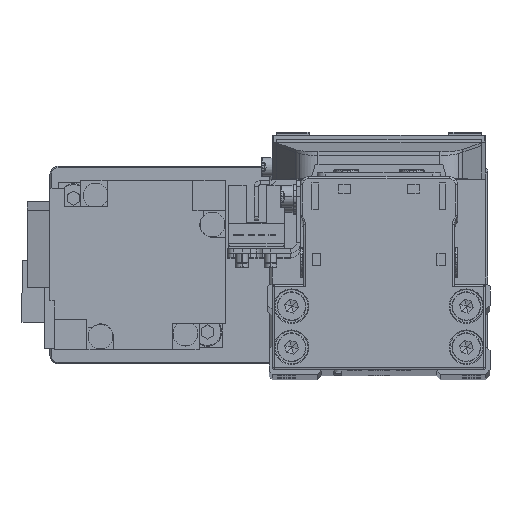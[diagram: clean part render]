
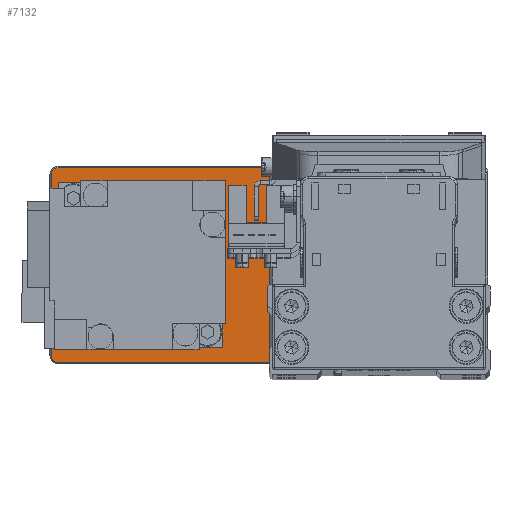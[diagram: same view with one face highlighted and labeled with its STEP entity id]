
A CAD part, top view. The second image highlights one B-rep face of the part: STEP entity #7132.
In plain terms, the highlighted planar face has unit normal (0, 0, 1).
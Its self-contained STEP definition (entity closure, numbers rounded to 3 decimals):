
#208 = EDGE_CURVE ( 'NONE', #26999, #27181, #16134, .T. ) ;
#572 = DIRECTION ( 'NONE',  ( -1., 0., 0. ) ) ;
#930 = DIRECTION ( 'NONE',  ( 0., 0., 1. ) ) ;
#1163 = VECTOR ( 'NONE', #572, 1000. ) ;
#2722 = CIRCLE ( 'NONE', #25641, 1.7 ) ;
#2948 = EDGE_CURVE ( 'NONE', #11490, #12778, #5357, .T. ) ;
#3284 = EDGE_LOOP ( 'NONE', ( #14914, #30682, #22603, #28601, #37656, #16591, #37247, #31876 ) ) ;
#3533 = DIRECTION ( 'NONE',  ( 0., 0., -1. ) ) ;
#3667 = DIRECTION ( 'NONE',  ( 1., 0., 0. ) ) ;
#4003 = FACE_OUTER_BOUND ( 'NONE', #3284, .T. ) ;
#4120 = EDGE_CURVE ( 'NONE', #9752, #39755, #26254, .T. ) ;
#5357 = CIRCLE ( 'NONE', #28283, 12.8 ) ;
#5688 = VERTEX_POINT ( 'NONE', #19235 ) ;
#5759 = VERTEX_POINT ( 'NONE', #22935 ) ;
#7103 = CARTESIAN_POINT ( 'NONE',  ( -50., 22., 5. ) ) ;
#7132 = ADVANCED_FACE ( 'NONE', ( #19564, #32068, #4003 ), #16511, .T. ) ;
#7136 = VECTOR ( 'NONE', #9497, 1000. ) ;
#8318 = CARTESIAN_POINT ( 'NONE',  ( 17.2, 0., 5. ) ) ;
#8536 = DIRECTION ( 'NONE',  ( 0., 0., 1. ) ) ;
#8549 = AXIS2_PLACEMENT_3D ( 'NONE', #39322, #11264, #23776 ) ;
#9104 = AXIS2_PLACEMENT_3D ( 'NONE', #27606, #40065, #12003 ) ;
#9110 = CARTESIAN_POINT ( 'NONE',  ( -17.7, 0., 5. ) ) ;
#9497 = DIRECTION ( 'NONE',  ( 0., -1., 0. ) ) ;
#9522 = CARTESIAN_POINT ( 'NONE',  ( 30., 0., 5. ) ) ;
#9752 = VERTEX_POINT ( 'NONE', #32127 ) ;
#9754 = AXIS2_PLACEMENT_3D ( 'NONE', #19251, #31740, #3667 ) ;
#9803 = DIRECTION ( 'NONE',  ( 0., 0., 1. ) ) ;
#10251 = DIRECTION ( 'NONE',  ( 1., 0., 0. ) ) ;
#10475 = LINE ( 'NONE', #23004, #35240 ) ;
#11264 = DIRECTION ( 'NONE',  ( 0., 0., 1. ) ) ;
#11490 = VERTEX_POINT ( 'NONE', #17545 ) ;
#12003 = DIRECTION ( 'NONE',  ( 1., 0., 0. ) ) ;
#12290 = ORIENTED_EDGE ( 'NONE', *, *, #19794, .T. ) ;
#12449 = EDGE_LOOP ( 'NONE', ( #26391, #12290 ) ) ;
#12778 = VERTEX_POINT ( 'NONE', #8318 ) ;
#12953 = AXIS2_PLACEMENT_3D ( 'NONE', #37856, #9803, #22340 ) ;
#13270 = ORIENTED_EDGE ( 'NONE', *, *, #2948, .T. ) ;
#13426 = DIRECTION ( 'NONE',  ( 1., 0., 0. ) ) ;
#14220 = CARTESIAN_POINT ( 'NONE',  ( 51.7, 22., 5. ) ) ;
#14457 = EDGE_CURVE ( 'NONE', #5759, #9752, #25855, .T. ) ;
#14914 = ORIENTED_EDGE ( 'NONE', *, *, #14457, .T. ) ;
#15229 = EDGE_CURVE ( 'NONE', #36341, #26999, #36490, .T. ) ;
#16025 = DIRECTION ( 'NONE',  ( 1., 0., 0. ) ) ;
#16124 = EDGE_LOOP ( 'NONE', ( #13270, #26208 ) ) ;
#16134 = LINE ( 'NONE', #28645, #1163 ) ;
#16511 = PLANE ( 'NONE',  #36007 ) ;
#16591 = ORIENTED_EDGE ( 'NONE', *, *, #25188, .T. ) ;
#16834 = CARTESIAN_POINT ( 'NONE',  ( 51.7, -22., 5. ) ) ;
#17545 = CARTESIAN_POINT ( 'NONE',  ( 42.8, 0., 5. ) ) ;
#17562 = EDGE_CURVE ( 'NONE', #39755, #36341, #10475, .T. ) ;
#18077 = EDGE_CURVE ( 'NONE', #34914, #38090, #25098, .T. ) ;
#18842 = AXIS2_PLACEMENT_3D ( 'NONE', #36586, #8536, #21066 ) ;
#18947 = CARTESIAN_POINT ( 'NONE',  ( -50., 23.7, 5. ) ) ;
#19235 = CARTESIAN_POINT ( 'NONE',  ( -38.3, 0., 5. ) ) ;
#19251 = CARTESIAN_POINT ( 'NONE',  ( 30., 0., 5. ) ) ;
#19559 = CARTESIAN_POINT ( 'NONE',  ( -51.7, -22., 5. ) ) ;
#19564 = FACE_BOUND ( 'NONE', #16124, .T. ) ;
#19622 = DIRECTION ( 'NONE',  ( 0., 0., 1. ) ) ;
#19794 = EDGE_CURVE ( 'NONE', #5688, #37880, #32422, .T. ) ;
#20807 = CARTESIAN_POINT ( 'NONE',  ( 50., 23.7, 5. ) ) ;
#21066 = DIRECTION ( 'NONE',  ( 1., 0., 0. ) ) ;
#22039 = DIRECTION ( 'NONE',  ( 0., 0., -1. ) ) ;
#22340 = DIRECTION ( 'NONE',  ( 1., 0., 0. ) ) ;
#22603 = ORIENTED_EDGE ( 'NONE', *, *, #17562, .T. ) ;
#22935 = CARTESIAN_POINT ( 'NONE',  ( -50., -23.7, 5. ) ) ;
#23004 = CARTESIAN_POINT ( 'NONE',  ( 51.7, 22., 5. ) ) ;
#23776 = DIRECTION ( 'NONE',  ( 1., 0., 0. ) ) ;
#25098 = LINE ( 'NONE', #37561, #7136 ) ;
#25188 = EDGE_CURVE ( 'NONE', #27181, #34914, #2722, .T. ) ;
#25641 = AXIS2_PLACEMENT_3D ( 'NONE', #7103, #19622, #32120 ) ;
#25855 = LINE ( 'NONE', #38309, #33320 ) ;
#25924 = CARTESIAN_POINT ( 'NONE',  ( -51.7, 22., 5. ) ) ;
#26208 = ORIENTED_EDGE ( 'NONE', *, *, #31294, .T. ) ;
#26254 = CIRCLE ( 'NONE', #8549, 1.7 ) ;
#26391 = ORIENTED_EDGE ( 'NONE', *, *, #33108, .T. ) ;
#26796 = CIRCLE ( 'NONE', #9104, 10.3 ) ;
#26999 = VERTEX_POINT ( 'NONE', #20807 ) ;
#27181 = VERTEX_POINT ( 'NONE', #18947 ) ;
#27451 = CIRCLE ( 'NONE', #9754, 12.8 ) ;
#27606 = CARTESIAN_POINT ( 'NONE',  ( -28., 0., 5. ) ) ;
#28283 = AXIS2_PLACEMENT_3D ( 'NONE', #9522, #22039, #34505 ) ;
#28601 = ORIENTED_EDGE ( 'NONE', *, *, #15229, .T. ) ;
#28645 = CARTESIAN_POINT ( 'NONE',  ( -50., 23.7, 5. ) ) ;
#29018 = CARTESIAN_POINT ( 'NONE',  ( 0., 0., 5. ) ) ;
#30110 = EDGE_CURVE ( 'NONE', #38090, #5759, #30616, .T. ) ;
#30616 = CIRCLE ( 'NONE', #12953, 1.7 ) ;
#30682 = ORIENTED_EDGE ( 'NONE', *, *, #4120, .T. ) ;
#31294 = EDGE_CURVE ( 'NONE', #12778, #11490, #27451, .T. ) ;
#31599 = CARTESIAN_POINT ( 'NONE',  ( -28., 0., 5. ) ) ;
#31740 = DIRECTION ( 'NONE',  ( 0., 0., -1. ) ) ;
#31876 = ORIENTED_EDGE ( 'NONE', *, *, #30110, .T. ) ;
#32068 = FACE_BOUND ( 'NONE', #12449, .T. ) ;
#32120 = DIRECTION ( 'NONE',  ( 1., 0., 0. ) ) ;
#32127 = CARTESIAN_POINT ( 'NONE',  ( 50., -23.7, 5. ) ) ;
#32422 = CIRCLE ( 'NONE', #37650, 10.3 ) ;
#33108 = EDGE_CURVE ( 'NONE', #37880, #5688, #26796, .T. ) ;
#33320 = VECTOR ( 'NONE', #10251, 1000. ) ;
#34505 = DIRECTION ( 'NONE',  ( 1., 0., 0. ) ) ;
#34914 = VERTEX_POINT ( 'NONE', #25924 ) ;
#35240 = VECTOR ( 'NONE', #35460, 1000. ) ;
#35460 = DIRECTION ( 'NONE',  ( 0., 1., 0. ) ) ;
#36007 = AXIS2_PLACEMENT_3D ( 'NONE', #29018, #930, #13426 ) ;
#36341 = VERTEX_POINT ( 'NONE', #14220 ) ;
#36490 = CIRCLE ( 'NONE', #18842, 1.7 ) ;
#36586 = CARTESIAN_POINT ( 'NONE',  ( 50., 22., 5. ) ) ;
#37247 = ORIENTED_EDGE ( 'NONE', *, *, #18077, .T. ) ;
#37561 = CARTESIAN_POINT ( 'NONE',  ( -51.7, -22., 5. ) ) ;
#37650 = AXIS2_PLACEMENT_3D ( 'NONE', #31599, #3533, #16025 ) ;
#37656 = ORIENTED_EDGE ( 'NONE', *, *, #208, .T. ) ;
#37856 = CARTESIAN_POINT ( 'NONE',  ( -50., -22., 5. ) ) ;
#37880 = VERTEX_POINT ( 'NONE', #9110 ) ;
#38090 = VERTEX_POINT ( 'NONE', #19559 ) ;
#38309 = CARTESIAN_POINT ( 'NONE',  ( 50., -23.7, 5. ) ) ;
#39322 = CARTESIAN_POINT ( 'NONE',  ( 50., -22., 5. ) ) ;
#39755 = VERTEX_POINT ( 'NONE', #16834 ) ;
#40065 = DIRECTION ( 'NONE',  ( 0., 0., -1. ) ) ;
